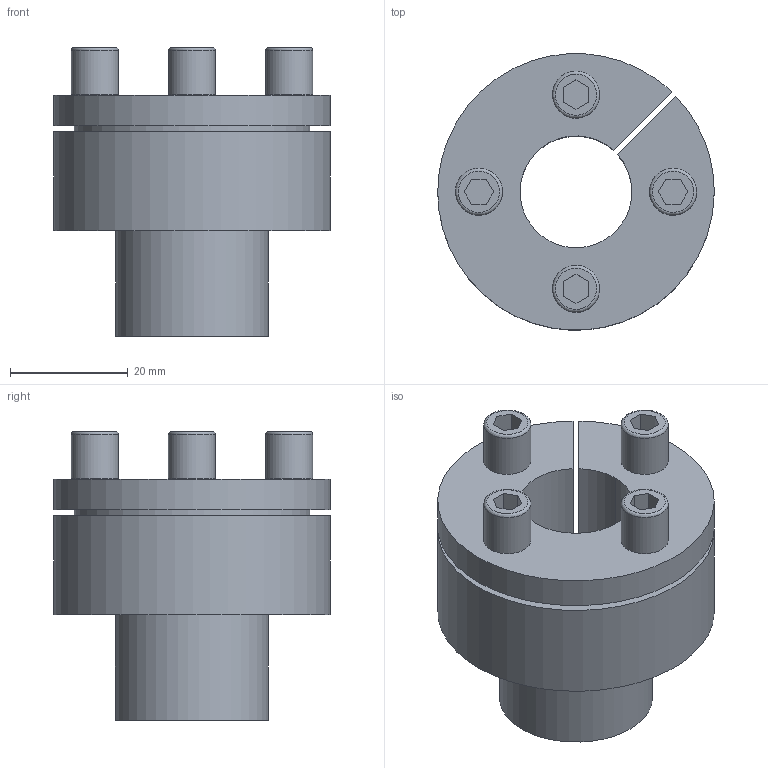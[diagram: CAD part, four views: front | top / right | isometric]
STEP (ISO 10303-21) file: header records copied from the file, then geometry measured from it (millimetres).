
FILE_DESCRIPTION ((), '1');
FILE_NAME ('H:\Energy Science\CAD Projects\Generator Research\Tesla_v1\Shaft Coupler\Shaft Coupler.stp', '2015-10-15T23:18:09', ('Unknown'), ('Unknown'), 'HarmonyWare STEP v1.7.11', 'HarmonyWare Translators', '');
FILE_SCHEMA (('CONFIG_CONTROL_DESIGN'));
Length unit declared in the file: millimetre
Products named in the file (5): product-name
Bounding box: 47 x 46.93 x 49.1 mm (x, y, z)
Volume: 39384.9 mm3; surface area: 14654.4 mm2
Topology: 5 solids, 5 shells, 129 faces, 321 edges, 210 vertices
Faces by surface type: bspline 129
Entity records: 63440 total; most frequent: CARTESIAN_POINT 61080, ORIENTED_EDGE 642, EDGE_CURVE 321, B_SPLINE_CURVE_WITH_KNOTS 216, VERTEX_POINT 210, EDGE_LOOP 137, FACE_OUTER_BOUND 129, ADVANCED_FACE 129
